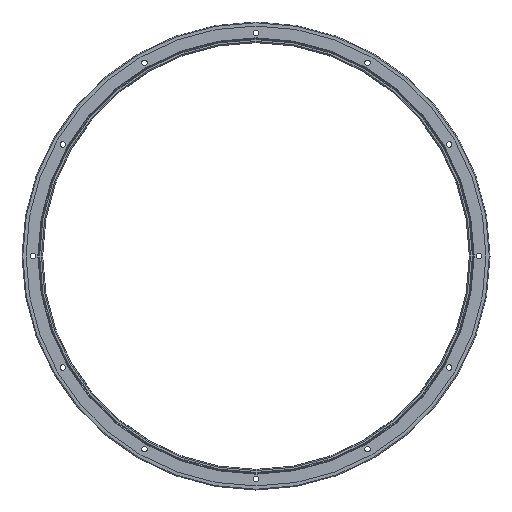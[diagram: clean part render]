
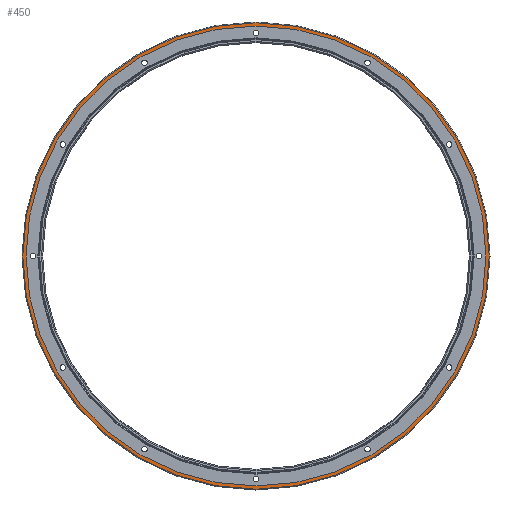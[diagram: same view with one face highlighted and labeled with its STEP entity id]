
A CAD part, front view. The second image highlights one B-rep face of the part: STEP entity #450.
In plain terms, the highlighted planar face has unit normal (0, -1, 0).
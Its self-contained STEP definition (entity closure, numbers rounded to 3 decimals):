
#389=CARTESIAN_POINT('Vertex',(0.,-464.3,297.)) ;
#396=CARTESIAN_POINT('Vertex',(0.,-464.3,-297.)) ;
#399=CARTESIAN_POINT('Axis2P3D Location',(0.,-464.3,0.)) ;
#411=CARTESIAN_POINT('Axis2P3D Location',(0.,-464.3,0.)) ;
#423=CARTESIAN_POINT('Axis2P3D Location',(0.,-464.3,301.217)) ;
#428=CARTESIAN_POINT('Axis2P3D Location',(0.,-464.3,0.)) ;
#432=CARTESIAN_POINT('Vertex',(0.,-464.3,-301.217)) ;
#434=CARTESIAN_POINT('Vertex',(0.,-464.3,301.217)) ;
#437=CARTESIAN_POINT('Axis2P3D Location',(0.,-464.3,0.)) ;
#400=DIRECTION('Axis2P3D Direction',(0.,-1.,0.)) ;
#412=DIRECTION('Axis2P3D Direction',(0.,-1.,0.)) ;
#424=DIRECTION('Axis2P3D Direction',(0.,-1.,0.)) ;
#425=DIRECTION('Axis2P3D XDirection',(1.,0.,0.)) ;
#429=DIRECTION('Axis2P3D Direction',(0.,-1.,0.)) ;
#438=DIRECTION('Axis2P3D Direction',(0.,-1.,0.)) ;
#401=AXIS2_PLACEMENT_3D('Circle Axis2P3D',#399,#400,$) ;
#413=AXIS2_PLACEMENT_3D('Circle Axis2P3D',#411,#412,$) ;
#426=AXIS2_PLACEMENT_3D('Plane Axis2P3D',#423,#424,#425) ;
#430=AXIS2_PLACEMENT_3D('Circle Axis2P3D',#428,#429,$) ;
#439=AXIS2_PLACEMENT_3D('Circle Axis2P3D',#437,#438,$) ;
#443=ORIENTED_EDGE('',*,*,#436,.T.) ;
#444=ORIENTED_EDGE('',*,*,#441,.T.) ;
#447=ORIENTED_EDGE('',*,*,#415,.F.) ;
#448=ORIENTED_EDGE('',*,*,#403,.F.) ;
#449=FACE_BOUND('',#446,.T.) ;
#450=ADVANCED_FACE('Corps de pi\X2\00E8\X0\ce.2',(#445,#449),#427,.T.) ;
#402=CIRCLE('generated circle',#401,297.) ;
#414=CIRCLE('generated circle',#413,297.) ;
#431=CIRCLE('generated circle',#430,301.217) ;
#440=CIRCLE('generated circle',#439,301.217) ;
#403=EDGE_CURVE('',#397,#390,#402,.T.) ;
#415=EDGE_CURVE('',#390,#397,#414,.T.) ;
#436=EDGE_CURVE('',#433,#435,#431,.T.) ;
#441=EDGE_CURVE('',#435,#433,#440,.T.) ;
#442=EDGE_LOOP('',(#443,#444)) ;
#446=EDGE_LOOP('',(#447,#448)) ;
#445=FACE_OUTER_BOUND('',#442,.T.) ;
#427=PLANE('',#426) ;
#390=VERTEX_POINT('',#389) ;
#397=VERTEX_POINT('',#396) ;
#433=VERTEX_POINT('',#432) ;
#435=VERTEX_POINT('',#434) ;
